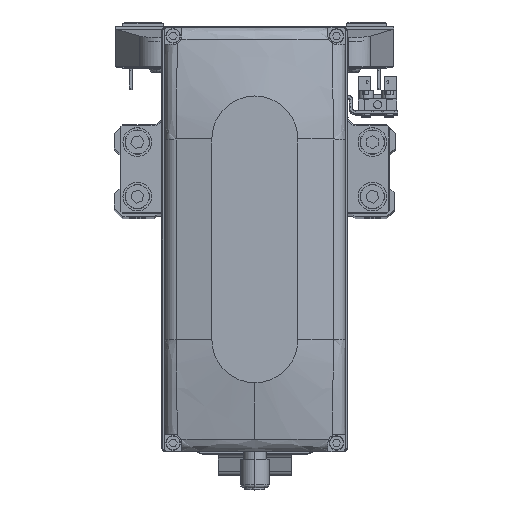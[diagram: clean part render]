
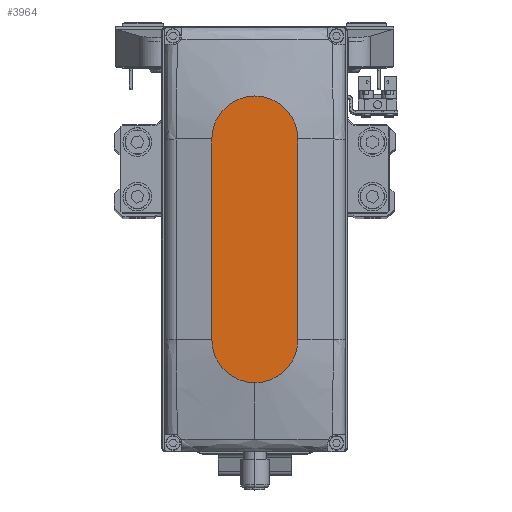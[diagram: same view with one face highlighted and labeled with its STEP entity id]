
A CAD part, top view. The second image highlights one B-rep face of the part: STEP entity #3964.
In plain terms, the highlighted planar face has unit normal (0, 0, 1).
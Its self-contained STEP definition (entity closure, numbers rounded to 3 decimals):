
#866 = LINE ( 'NONE', #14542, #29263 ) ;
#2065 = CARTESIAN_POINT ( 'NONE',  ( 0., 0., 35. ) ) ;
#3459 = VERTEX_POINT ( 'NONE', #7797 ) ;
#3964 = ADVANCED_FACE ( 'NONE', ( #19112 ), #32744, .T. ) ;
#4185 = DIRECTION ( 'NONE',  ( 1., 0., 0. ) ) ;
#4796 = ORIENTED_EDGE ( 'NONE', *, *, #10858, .T. ) ;
#7102 = CARTESIAN_POINT ( 'NONE',  ( 35., 0., 35. ) ) ;
#7204 = EDGE_CURVE ( 'NONE', #7663, #39119, #12635, .T. ) ;
#7663 = VERTEX_POINT ( 'NONE', #27248 ) ;
#7703 = EDGE_CURVE ( 'NONE', #3459, #21672, #12936, .T. ) ;
#7797 = CARTESIAN_POINT ( 'NONE',  ( 50., 0., 35. ) ) ;
#8953 = ORIENTED_EDGE ( 'NONE', *, *, #7204, .T. ) ;
#9077 = EDGE_LOOP ( 'NONE', ( #33457, #4796, #8953, #24603, #18521 ) ) ;
#9669 = DIRECTION ( 'NONE',  ( 1., 0., 0. ) ) ;
#10858 = EDGE_CURVE ( 'NONE', #13253, #7663, #33880, .T. ) ;
#12635 = LINE ( 'NONE', #26273, #23264 ) ;
#12936 = CIRCLE ( 'NONE', #37944, 15. ) ;
#13253 = VERTEX_POINT ( 'NONE', #40140 ) ;
#14542 = CARTESIAN_POINT ( 'NONE',  ( -35., 15., 35. ) ) ;
#14592 = AXIS2_PLACEMENT_3D ( 'NONE', #21234, #34877, #4185 ) ;
#15746 = DIRECTION ( 'NONE',  ( 0., 0., 1. ) ) ;
#18521 = ORIENTED_EDGE ( 'NONE', *, *, #7703, .T. ) ;
#19112 = FACE_OUTER_BOUND ( 'NONE', #9077, .T. ) ;
#19485 = AXIS2_PLACEMENT_3D ( 'NONE', #26680, #40346, #9669 ) ;
#20772 = DIRECTION ( 'NONE',  ( 0., 0., 1. ) ) ;
#21234 = CARTESIAN_POINT ( 'NONE',  ( -35., 0., 35. ) ) ;
#21672 = VERTEX_POINT ( 'NONE', #37223 ) ;
#23264 = VECTOR ( 'NONE', #39939, 1000. ) ;
#24603 = ORIENTED_EDGE ( 'NONE', *, *, #43347, .T. ) ;
#26273 = CARTESIAN_POINT ( 'NONE',  ( -35., -15., 35. ) ) ;
#26680 = CARTESIAN_POINT ( 'NONE',  ( 35., 0., 35. ) ) ;
#27248 = CARTESIAN_POINT ( 'NONE',  ( -35., -15., 35. ) ) ;
#28176 = DIRECTION ( 'NONE',  ( -1., 0., 0. ) ) ;
#29263 = VECTOR ( 'NONE', #28176, 1000. ) ;
#29377 = DIRECTION ( 'NONE',  ( 1., 0., 0. ) ) ;
#31769 = AXIS2_PLACEMENT_3D ( 'NONE', #2065, #15746, #29377 ) ;
#32744 = PLANE ( 'NONE',  #31769 ) ;
#33457 = ORIENTED_EDGE ( 'NONE', *, *, #38985, .T. ) ;
#33880 = CIRCLE ( 'NONE', #14592, 15. ) ;
#34418 = DIRECTION ( 'NONE',  ( 1., 0., 0. ) ) ;
#34877 = DIRECTION ( 'NONE',  ( 0., 0., 1. ) ) ;
#36247 = CARTESIAN_POINT ( 'NONE',  ( 35., -15., 35. ) ) ;
#37223 = CARTESIAN_POINT ( 'NONE',  ( 35., 15., 35. ) ) ;
#37944 = AXIS2_PLACEMENT_3D ( 'NONE', #7102, #20772, #34418 ) ;
#38773 = CIRCLE ( 'NONE', #19485, 15. ) ;
#38985 = EDGE_CURVE ( 'NONE', #21672, #13253, #866, .T. ) ;
#39119 = VERTEX_POINT ( 'NONE', #36247 ) ;
#39939 = DIRECTION ( 'NONE',  ( 1., 0., 0. ) ) ;
#40140 = CARTESIAN_POINT ( 'NONE',  ( -35., 15., 35. ) ) ;
#40346 = DIRECTION ( 'NONE',  ( 0., 0., 1. ) ) ;
#43347 = EDGE_CURVE ( 'NONE', #39119, #3459, #38773, .T. ) ;
